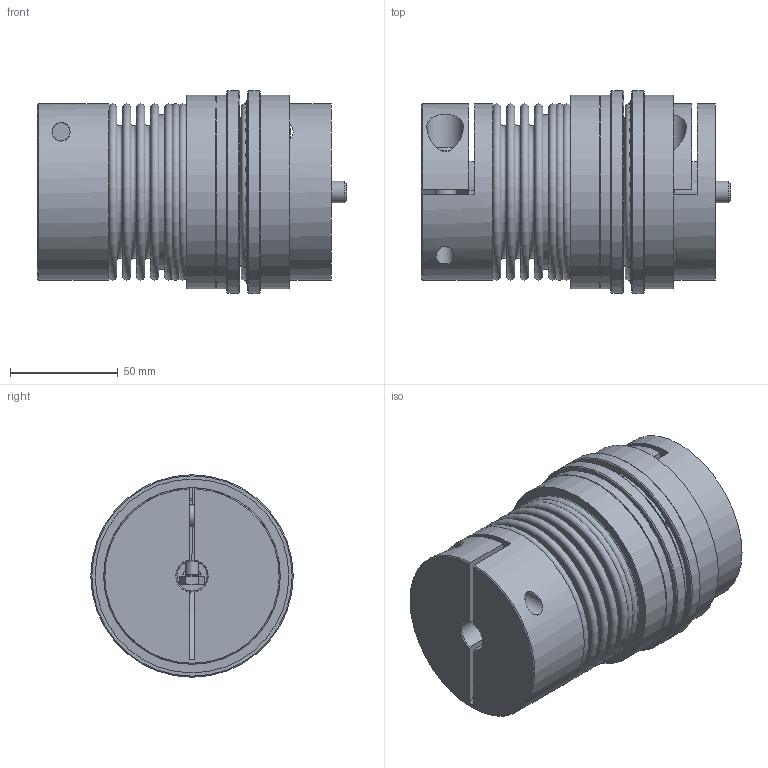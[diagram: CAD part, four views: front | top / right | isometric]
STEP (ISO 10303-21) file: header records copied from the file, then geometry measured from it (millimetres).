
FILE_DESCRIPTION( ( 'Unknown' ), '1' );
FILE_NAME( 'C:/Dokumente und Einstellungen/SKarpstein/Desktop/Korrigierte 3D Modelle/KBK-BKI-150-118.stp', 'Unknown', ( 'Unknown' ), ( 'Unknown' ), 'XStep 1.0', 'Unknown', ' ' );
FILE_SCHEMA( ( 'automotive_design' ) );
Length unit declared in the file: millimetre
Products named in the file (10): Assem1; KBK L-I-80 Grundkörper_0; Konusbuchse 80_0; Stellring 80; Druckring 80; din_en_24017_m6x25; Flansch BK150; BL80-150_Standard_3; KN80-150_Standard_4; Socket Head Cap Screw_DIN_DIN 912 M10 x 30 --- 30N_5
Bounding box: 143.55 x 94 x 94 mm (x, y, z)
Volume: 718945 mm3; surface area: 342365.7 mm2
Topology: 23 solids, 23 shells, 580 faces, 1212 edges, 785 vertices
Faces by surface type: plane 273, cylinder 126, cone 122, torus 59
Full cylindrical faces by diameter (mm): 3.242 x6, 4.917 x18, 5 x8, 5.2 x6, 6 x7, 6.6 x12, 8.5 x2, 8.8 x7, 10 x6, 14 x2, 16 x2, 17 x2, 30 x4, 37.5 x2, 40 x4, 41 x2, 48 x2, 52 x2, 59.5 x2, 62 x4, 70 x2, 70.7 x4, 71.9 x4, 82 x2, 85 x2, 87 x2, 90 x4, 94 x2
Entity records: 6444 total; most frequent: CARTESIAN_POINT 1486, DIRECTION 1037, ORIENTED_EDGE 694, AXIS2_PLACEMENT_3D 475, EDGE_LOOP 432, EDGE_CURVE 347, FACE_OUTER_BOUND 318, VERTEX_POINT 286
